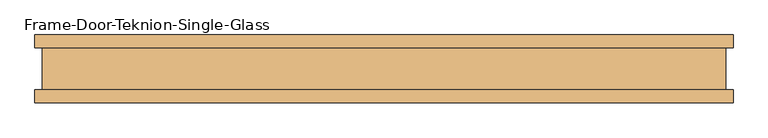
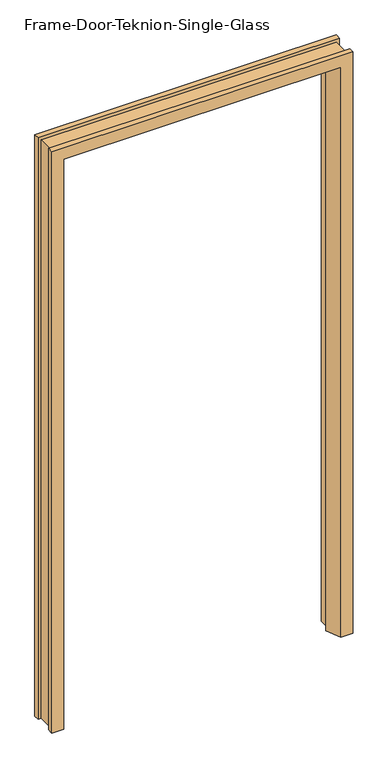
"""IFC4 building model written with IfcOpenShell, lengths in millimetres: door geometry, Frame-Door-Teknion-Single-Glass : FPFJS."""

from ifc_helpers import new_model, si_unit, origin, place, context, project, spatial, faceted_brep, source, transform, mapped, element, save


def frame_door_teknion_single_glass_bf3171e9(model_context):
    return source(origin(), model_context, "Body", "Brep", [
        faceted_brep([(-471.9858347, 50.8, 0.0), (-471.9858347, 0.7133435, 0.0), (-459.0634123, 0.7133435, 0.0), (-481.5105299, -50.8, 0.0), (-523.4208347, -50.8, 0.0), (-523.4208347, -31.5339997, 0.0), (-512.4152344, -31.5339997, 0.0), (-512.4152344, 31.5339997, 0.0), (-523.4208347, 31.5339997, 0.0), (-523.4208347, 50.8, 0.0), (-471.9858347, 50.8, 2082.165), (-471.9858347, 0.7133435, 2082.165), (471.9858347, 0.7133435, 2082.165), (471.9858347, 0.7133435, 0.0), (459.0634123, 0.7133435, 0.0), (459.0634123, 0.7133435, 2069.2425776), (-459.0634123, 0.7133435, 2069.2425776), (-481.5105299, -50.8, 2091.6896953), (481.5105299, -50.8, 2091.6896953), (481.5105299, -50.8, 0.0), (523.4208347, -50.8, 0.0), (523.4208347, -50.8, 2133.6), (-523.4208347, -50.8, 2133.6), (-523.4208347, -31.5339997, 2133.6), (523.4208347, -31.5339997, 2133.6), (523.4208347, -31.5339997, 0.0), (512.4152344, -31.5339997, 0.0), (512.4152344, -31.5339997, 2122.5943997), (-512.4152344, -31.5339997, 2122.5943997), (-512.4152344, 31.5339997, 2122.5943997), (512.4152344, 31.5339997, 2122.5943997), (512.4152344, 31.5339997, 0.0), (523.4208347, 31.5339997, 0.0), (523.4208347, 31.5339997, 2133.6), (-523.4208347, 31.5339997, 2133.6), (-523.4208347, 50.8, 2133.6), (523.4208347, 50.8, 2133.6), (523.4208347, 50.8, 0.0), (471.9858347, 50.8, 0.0), (471.9858347, 50.8, 2082.165)], [[[0, 1, 2, 3, 4, 5, 6, 7, 8, 9]], [[1, 0, 10, 11]], [[2, 1, 11, 12, 13, 14, 15, 16]], [[3, 2, 16, 17]], [[4, 3, 17, 18, 19, 20, 21, 22]], [[5, 4, 22, 23]], [[6, 5, 23, 24, 25, 26, 27, 28]], [[7, 6, 28, 29]], [[8, 7, 29, 30, 31, 32, 33, 34]], [[9, 8, 34, 35]], [[0, 9, 35, 36, 37, 38, 39, 10]], [[38, 37, 32, 31, 26, 25, 20, 19, 14, 13]], [[12, 39, 38, 13]], [[18, 15, 14, 19]], [[24, 21, 20, 25]], [[30, 27, 26, 31]], [[36, 33, 32, 37]], [[11, 10, 39, 12]], [[17, 16, 15, 18]], [[23, 22, 21, 24]], [[29, 28, 27, 30]], [[35, 34, 33, 36]]]),
    ])


if __name__ == "__main__":
    model = new_model("IFC4")
    model_context = context("Model", 3, world=origin())
    ifc_project = project(units=[si_unit("LENGTHUNIT", "METRE", prefix="MILLI")], contexts=[model_context])
    site = spatial("IfcSite", under=ifc_project)
    building = spatial("IfcBuilding", under=site)
    placement = place(None, origin())
    frame_door_teknion_single_glass_shape = frame_door_teknion_single_glass_bf3171e9(model_context)
    element("IfcDoor", 1, ObjectType="Frame-Door-Teknion-Single-Glass : FPFJS", at=placement, inside=building, context=model_context, shape_type="MappedRepresentation", body=[
        mapped(frame_door_teknion_single_glass_shape, transform((0.0, 0.0, 0.0), x_axis=(1.0, 0.0, 0.0), y_axis=(0.0, 1.0, 0.0), z_axis=(0.0, 0.0, 1.0))),
    ])
    save(model, "model.ifc")
